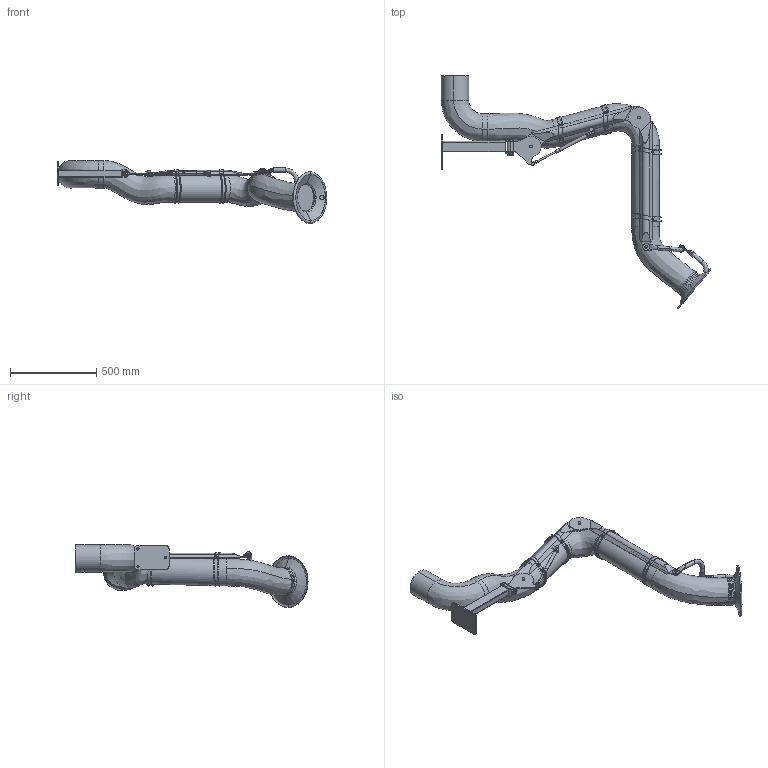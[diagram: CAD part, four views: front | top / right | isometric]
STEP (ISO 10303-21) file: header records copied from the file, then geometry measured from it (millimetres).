
FILE_DESCRIPTION((''),'2;1');
FILE_NAME('PSS_2000-160','2023-02-07T15:01:59',('Tomas Bellgran'),(''),'CREO PARAMETRIC BY PTC INC, 2018260','CREO PARAMETRIC BY PTC INC, 2018260','');
FILE_SCHEMA(('AUTOMOTIVE_DESIGN { 1 0 10303 214 1 1 1 1 }'));
Length unit declared in the file: millimetre
Products named in the file (31): 131088_LIGHT; 131043; 131046_LIGHT; 131046; 144355; 131150; 139382; 131151; 131172; 144356; 141589; 134343_AF0; G_P136_WELD-REF; 141590; 122717_LIGHT; 130315; ROD_STAB_8-160-REF; 131095; 130320_AF3; 131145; 131131_AF0; 131134_AF0; 131139; 132674; 107524; SKRUVSATS_LITEN; SKRUVSATS_BIG; SKRUVSATS_LITEN-2; SKRUVSATS_BIGGEST; 120127_COMPL_LIGHT; PSS_2000-160
Assembly tree (46 placements, depth 3):
  PSS_2000-160
    131043
      131088_LIGHT
    131046
      131046_LIGHT
    144355  x4
    131150
    131172
      139382
      131151
    144356  x2
    141590
      141589
      134343_AF0
      G_P136_WELD-REF
    122717_LIGHT
    130320_AF3
      130315
      ROD_STAB_8-160-REF
      131095  x2
    131145  x2
    131139  x4
      131131_AF0
      131134_AF0
    132674
    107524  x4
    SKRUVSATS_LITEN  x2
    SKRUVSATS_BIG  x2
    SKRUVSATS_LITEN-2  x2
    SKRUVSATS_BIGGEST  x2
    120127_COMPL_LIGHT
Bounding box: 1563.42 x 1346.59 x 365.27 mm (x, y, z)
Volume: 51319546.2 mm3; surface area: 2195231.2 mm2
Topology: 43 solids, 44 shells, 994 faces, 2406 edges, 1663 vertices
Faces by surface type: plane 321, cylinder 318, bspline 258, torus 48, cone 42, extrusion 5, sphere 2
Entity records: 41229 total; most frequent: CARTESIAN_POINT 17483, DIRECTION 3098, ORIENTED_EDGE 2732, PRESENTATION_STYLE_ASSIGNMENT 1975, STYLED_ITEM 1948, CURVE_STYLE 1500, EDGE_CURVE 1366, AXIS2_PLACEMENT_3D 1207
